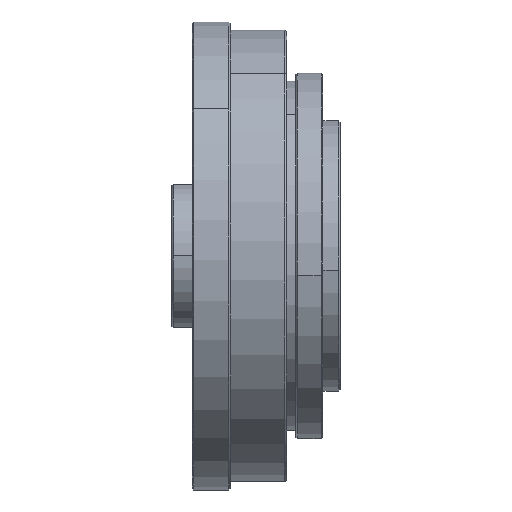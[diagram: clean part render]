
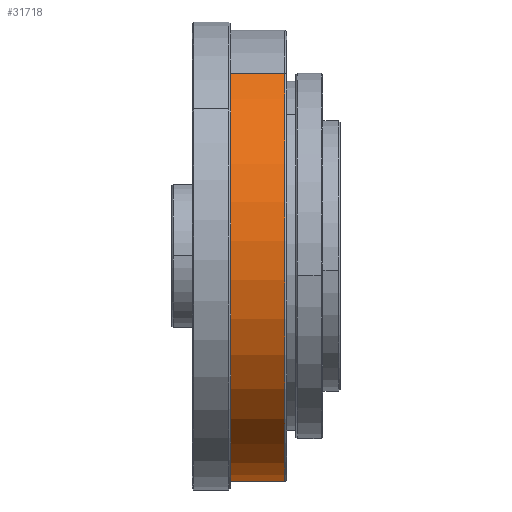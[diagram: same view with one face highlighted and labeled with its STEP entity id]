
A CAD part, top view. The second image highlights one B-rep face of the part: STEP entity #31718.
In plain terms, the highlighted cylindrical face has radius 71 mm (diameter 142 mm), a partial arc.
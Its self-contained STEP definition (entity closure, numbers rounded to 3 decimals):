
#2280 = ORIENTED_EDGE ( 'NONE', *, *, #13331, .F. ) ;
#4996 = VECTOR ( 'NONE', #35079, 1000. ) ;
#6984 = DIRECTION ( 'NONE',  ( -1., 0., 0. ) ) ;
#7001 = CARTESIAN_POINT ( 'NONE',  ( 0., 0., 0. ) ) ;
#8175 = CARTESIAN_POINT ( 'NONE',  ( 0., 0., -71. ) ) ;
#8377 = EDGE_CURVE ( 'NONE', #9232, #27424, #27545, .T. ) ;
#8958 = CARTESIAN_POINT ( 'NONE',  ( 25.1, 0., -71. ) ) ;
#9232 = VERTEX_POINT ( 'NONE', #36002 ) ;
#9824 = DIRECTION ( 'NONE',  ( 0., 0., 1. ) ) ;
#10996 = DIRECTION ( 'NONE',  ( -1., 0., 0. ) ) ;
#12391 = DIRECTION ( 'NONE',  ( -1., 0., 0. ) ) ;
#13331 = EDGE_CURVE ( 'NONE', #19289, #33196, #20315, .T. ) ;
#13956 = CYLINDRICAL_SURFACE ( 'NONE', #17372, 71. ) ;
#16434 = EDGE_LOOP ( 'NONE', ( #2280, #26811, #29118, #16984 ) ) ;
#16984 = ORIENTED_EDGE ( 'NONE', *, *, #23735, .F. ) ;
#17372 = AXIS2_PLACEMENT_3D ( 'NONE', #7001, #26788, #9824 ) ;
#18175 = CARTESIAN_POINT ( 'NONE',  ( 0., 0., 71. ) ) ;
#19289 = VERTEX_POINT ( 'NONE', #8958 ) ;
#20315 = LINE ( 'NONE', #8175, #26958 ) ;
#20337 = AXIS2_PLACEMENT_3D ( 'NONE', #23948, #6984, #26769 ) ;
#22375 = FACE_OUTER_BOUND ( 'NONE', #16434, .T. ) ;
#22959 = AXIS2_PLACEMENT_3D ( 'NONE', #29335, #12391, #32140 ) ;
#23272 = CARTESIAN_POINT ( 'NONE',  ( 5.9, 0., 71. ) ) ;
#23735 = EDGE_CURVE ( 'NONE', #33196, #27424, #34352, .T. ) ;
#23948 = CARTESIAN_POINT ( 'NONE',  ( 5.9, 0., 0. ) ) ;
#24968 = CARTESIAN_POINT ( 'NONE',  ( 5.9, 0., -71. ) ) ;
#25830 = CIRCLE ( 'NONE', #22959, 71. ) ;
#26769 = DIRECTION ( 'NONE',  ( 0., 0., 1. ) ) ;
#26788 = DIRECTION ( 'NONE',  ( -1., 0., 0. ) ) ;
#26811 = ORIENTED_EDGE ( 'NONE', *, *, #28606, .T. ) ;
#26958 = VECTOR ( 'NONE', #10996, 1000. ) ;
#27424 = VERTEX_POINT ( 'NONE', #23272 ) ;
#27545 = LINE ( 'NONE', #18175, #4996 ) ;
#28606 = EDGE_CURVE ( 'NONE', #19289, #9232, #25830, .T. ) ;
#29118 = ORIENTED_EDGE ( 'NONE', *, *, #8377, .T. ) ;
#29335 = CARTESIAN_POINT ( 'NONE',  ( 25.1, 0., 0. ) ) ;
#31718 = ADVANCED_FACE ( 'NONE', ( #22375 ), #13956, .T. ) ;
#32140 = DIRECTION ( 'NONE',  ( 0., 0., 1. ) ) ;
#33196 = VERTEX_POINT ( 'NONE', #24968 ) ;
#34352 = CIRCLE ( 'NONE', #20337, 71. ) ;
#35079 = DIRECTION ( 'NONE',  ( -1., 0., 0. ) ) ;
#36002 = CARTESIAN_POINT ( 'NONE',  ( 25.1, 0., 71. ) ) ;
